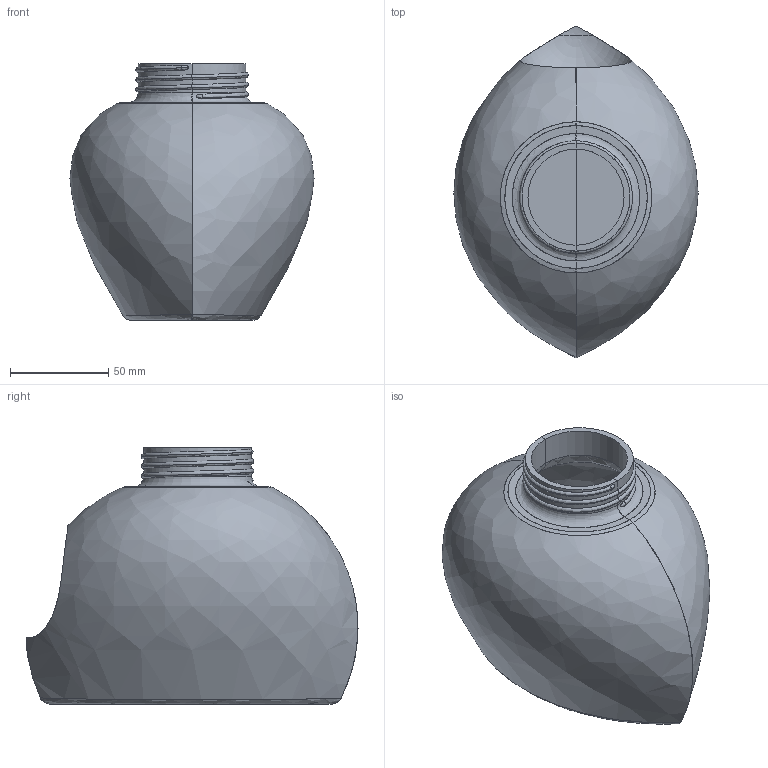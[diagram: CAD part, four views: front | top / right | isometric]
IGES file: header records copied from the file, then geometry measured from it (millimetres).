
Start section: START RECORD GO HERE.
Global section: file name: c1-Ginebreda_Cairo_Guillermo-solucion-posible.igs; native system: IBM CATIA IGES - CATIA Version 5 Release 19 ; preprocessor: CATIA Version 5 Release 19 ; author: andres.garcia; organization: IQS; date: 20200131.143924; units: millimetre
Bounding box: 124.52 x 169.3 x 131 mm (x, y, z)
Surface area: 120596.3 mm2 (no closed solid volume)
Topology: 0 solids, 0 shells, 54 faces, 252 edges, 248 vertices
Faces by surface type: bspline 32, revolution 16, plane 6
